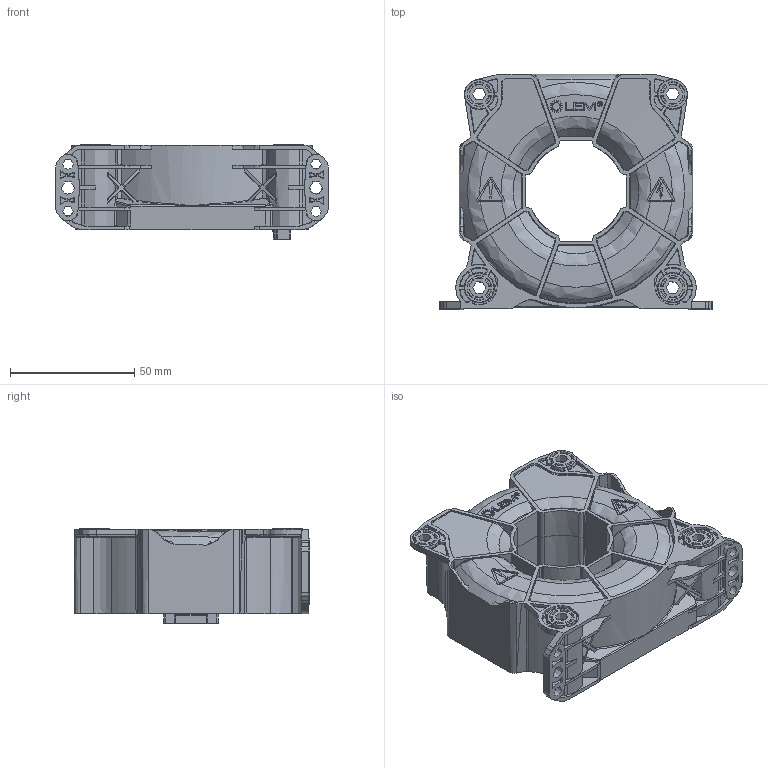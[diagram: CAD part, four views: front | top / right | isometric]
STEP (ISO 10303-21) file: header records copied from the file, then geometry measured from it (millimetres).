
FILE_DESCRIPTION(('Creo Elements/Direct Modeling STEP Export'),'2;1');
FILE_NAME('90.J9.60.014.0_20160602.stp','2016-06-02T20:06:10',(''),(''),'PTC Creo Elements/Direct Modeling STEP processor for AP214 (Solid Model)','PTC Creo Elements/Direct Modeling 19.0B 21-Mar-2015 (C) Parametric Technology GmbH','');
FILE_SCHEMA(('AUTOMOTIVE_DESIGN { 1 0 10303 214 1 1 1 1 }'));
Products named in the file (2): p1; LF_1010_OUTLINE_M
Assembly tree (1 placements, depth 2):
  LF_1010_OUTLINE_M
    p1
Bounding box: 110 x 94.8 x 38.1 mm (x, y, z)
Volume: 204089.6 mm3; surface area: 39005.8 mm2
Topology: 1 solids, 2 shells, 2445 faces, 6206 edges, 3819 vertices
Faces by surface type: bspline 896, plane 683, cylinder 595, cone 169, torus 100, sphere 2
Entity records: 158935 total; most frequent: CARTESIAN_POINT 102869, ORIENTED_EDGE 12358, DIRECTION 9853, EDGE_CURVE 6179, VERTEX_POINT 3819, AXIS2_PLACEMENT_3D 3778, EDGE_LOOP 2548, FACE_OUTER_BOUND 2445
